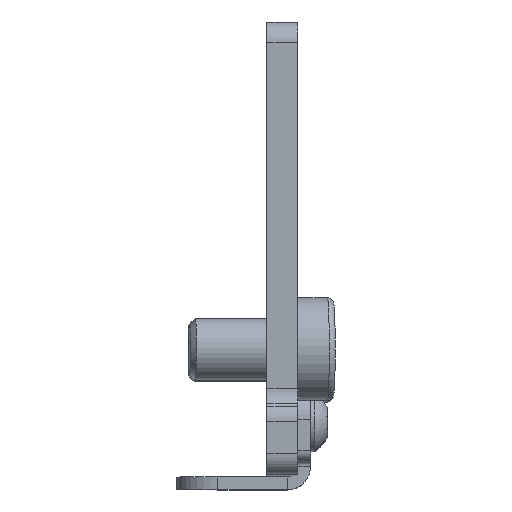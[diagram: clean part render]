
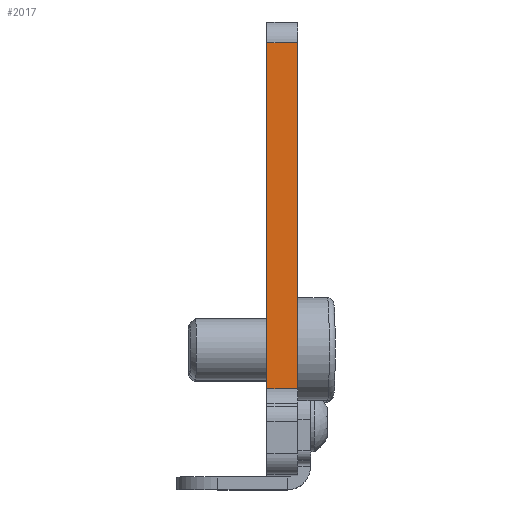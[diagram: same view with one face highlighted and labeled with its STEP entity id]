
A CAD part, top view. The second image highlights one B-rep face of the part: STEP entity #2017.
In plain terms, the highlighted planar face has unit normal (0, 0, 1).
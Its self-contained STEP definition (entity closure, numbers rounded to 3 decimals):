
#19 = DIRECTION ( 'NONE',  ( 0., 0., 1. ) ) ;
#54 = VERTEX_POINT ( 'NONE', #172 ) ;
#172 = CARTESIAN_POINT ( 'NONE',  ( 3., 8.328, 80. ) ) ;
#235 = EDGE_CURVE ( 'NONE', #1522, #2776, #3742, .T. ) ;
#250 = CARTESIAN_POINT ( 'NONE',  ( 3., 42., 80. ) ) ;
#376 = VECTOR ( 'NONE', #2228, 1000. ) ;
#377 = LINE ( 'NONE', #1976, #3037 ) ;
#387 = VECTOR ( 'NONE', #2707, 1000. ) ;
#504 = CARTESIAN_POINT ( 'NONE',  ( 0., 8.328, 80. ) ) ;
#585 = LINE ( 'NONE', #3243, #1348 ) ;
#638 = ORIENTED_EDGE ( 'NONE', *, *, #1074, .F. ) ;
#900 = CARTESIAN_POINT ( 'NONE',  ( 3., 44., 80. ) ) ;
#1074 = EDGE_CURVE ( 'NONE', #1522, #54, #1233, .T. ) ;
#1233 = LINE ( 'NONE', #900, #376 ) ;
#1340 = DIRECTION ( 'NONE',  ( 1., 0., 0. ) ) ;
#1348 = VECTOR ( 'NONE', #1885, 1000. ) ;
#1522 = VERTEX_POINT ( 'NONE', #250 ) ;
#1613 = PLANE ( 'NONE',  #2022 ) ;
#1885 = DIRECTION ( 'NONE',  ( 0., -1., 0. ) ) ;
#1976 = CARTESIAN_POINT ( 'NONE',  ( 3., 8.328, 80. ) ) ;
#2017 = ADVANCED_FACE ( 'NONE', ( #3578 ), #1613, .T. ) ;
#2022 = AXIS2_PLACEMENT_3D ( 'NONE', #3833, #19, #2883 ) ;
#2115 = CARTESIAN_POINT ( 'NONE',  ( 0., 42., 80. ) ) ;
#2119 = VERTEX_POINT ( 'NONE', #504 ) ;
#2228 = DIRECTION ( 'NONE',  ( 0., -1., 0. ) ) ;
#2707 = DIRECTION ( 'NONE',  ( -1., 0., 0. ) ) ;
#2776 = VERTEX_POINT ( 'NONE', #2115 ) ;
#2883 = DIRECTION ( 'NONE',  ( 0., -1., 0. ) ) ;
#3017 = CARTESIAN_POINT ( 'NONE',  ( 0., 42., 80. ) ) ;
#3037 = VECTOR ( 'NONE', #1340, 1000. ) ;
#3243 = CARTESIAN_POINT ( 'NONE',  ( 0., 44., 80. ) ) ;
#3489 = EDGE_CURVE ( 'NONE', #2776, #2119, #585, .T. ) ;
#3578 = FACE_OUTER_BOUND ( 'NONE', #4115, .T. ) ;
#3591 = ORIENTED_EDGE ( 'NONE', *, *, #235, .T. ) ;
#3652 = EDGE_CURVE ( 'NONE', #2119, #54, #377, .T. ) ;
#3742 = LINE ( 'NONE', #3017, #387 ) ;
#3833 = CARTESIAN_POINT ( 'NONE',  ( 0., 44., 80. ) ) ;
#3911 = ORIENTED_EDGE ( 'NONE', *, *, #3652, .T. ) ;
#3958 = ORIENTED_EDGE ( 'NONE', *, *, #3489, .T. ) ;
#4115 = EDGE_LOOP ( 'NONE', ( #638, #3591, #3958, #3911 ) ) ;
